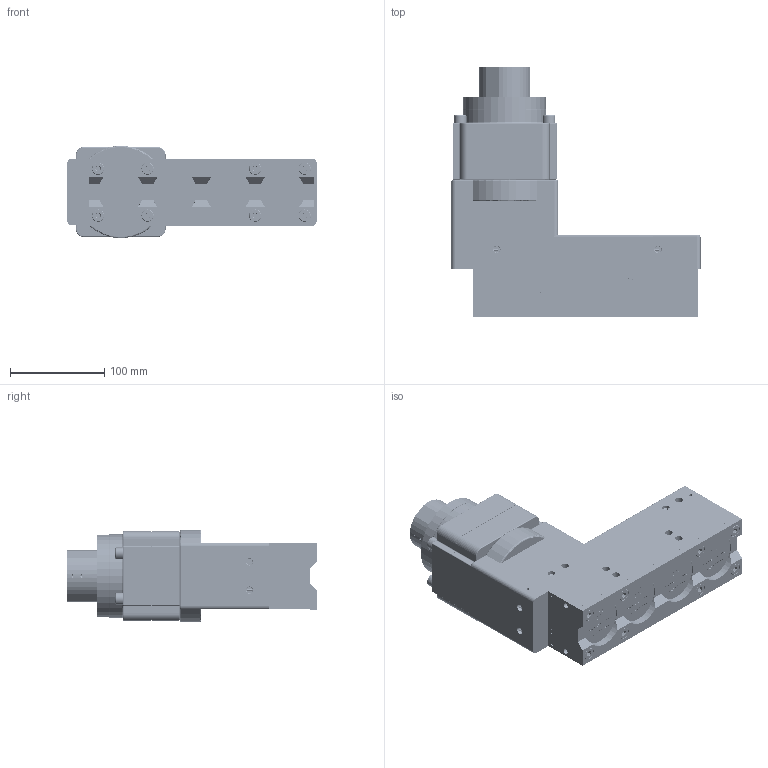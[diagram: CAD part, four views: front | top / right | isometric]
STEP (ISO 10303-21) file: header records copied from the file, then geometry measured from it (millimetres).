
FILE_DESCRIPTION (( 'STEP AP203' ), '1' );
FILE_NAME ('81401739_CFM.STEP', '2026-02-20T17:44:45', ( '' ), ( '' ), 'SwSTEP 2.0', 'SolidWorks 2024', '' );
FILE_SCHEMA (( 'CONFIG_CONTROL_DESIGN' ));
Products named in the file (1): 81401739_CFM
Bounding box: 263.91 x 265.32 x 97.65 mm (x, y, z)
Volume: 2632477.1 mm3; surface area: 451385 mm2
Topology: 78 solids, 78 shells, 6384 faces, 16636 edges, 10845 vertices
Faces by surface type: plane 2431, cylinder 2124, bspline 1299, cone 464, torus 56, sphere 10
Entity records: 315266 total; most frequent: CARTESIAN_POINT 174628, ORIENTED_EDGE 33198, DIRECTION 23298, EDGE_CURVE 16599, VERTEX_POINT 10842, VECTOR 8774, LINE 8774, AXIS2_PLACEMENT_3D 7262
